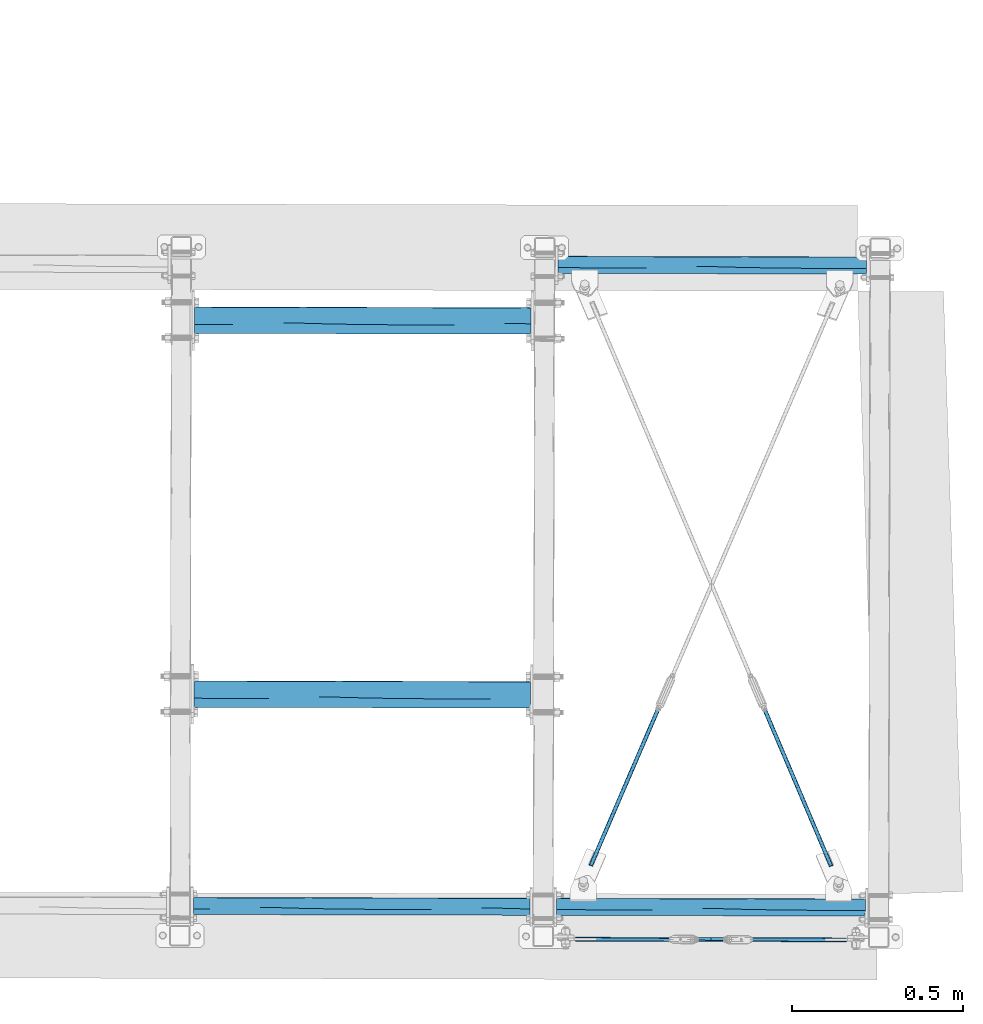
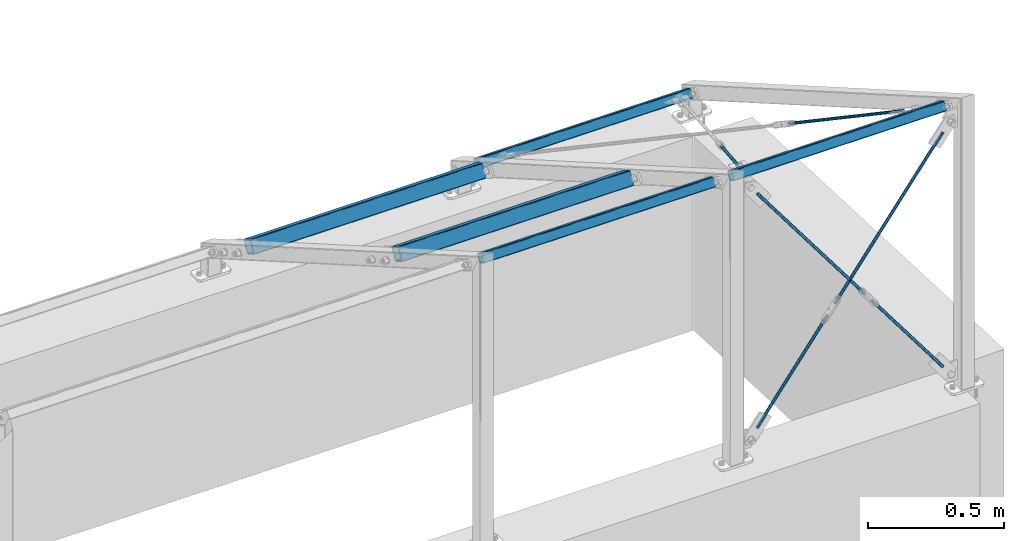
# One storey, part 20 of 288: 6 members, 5 beams.
"""IFC2X3 building model written with IfcOpenShell, lengths in millimetres."""

from ifc_helpers import new_model, entity, si_unit, converted_unit, frame, origin, origin_with_axes, origin_2d, place, context, project, spatial, hollow_rectangle, circle, extrude, clip, halfspace, material, element, save


model = new_model("IFC2X3")

# Units and contexts
model_context = context("Model", 3, precision=1e-09, world=origin_with_axes())
ifc_project = project(units=[si_unit("LENGTHUNIT", "METRE", prefix="MILLI"), si_unit("AREAUNIT", "SQUARE_METRE"), si_unit("VOLUMEUNIT", "CUBIC_METRE"), converted_unit("PLANEANGLEUNIT", "DEGREE", entity("IfcPlaneAngleMeasure", 0.01745329), si_unit("PLANEANGLEUNIT", "RADIAN"), dimensions=[0, 0, 0, 0, 0, 0, 0])], contexts=[model_context])

# Site, building, storey
site_placement = place(None, origin_with_axes())
site = spatial("IfcSite", under=ifc_project, at=site_placement, Name="Remont ?wietlik?w nad MC w NCPP w Opolu", CompositionType="ELEMENT")
building_placement = place(site_placement, origin_with_axes())
building = spatial("IfcBuilding", under=site, at=building_placement, Name="Konstrukcja 1", CompositionType="ELEMENT")
storey_placement = place(building_placement, origin_with_axes())
storey = spatial("IfcBuildingStorey", under=building, at=storey_placement, Name="Default Storey", CompositionType="ELEMENT", Elevation=0.0)

# Beams
ifc_material_1 = material(Name="S235")
beam_1_placement = place(None, frame((11126.811797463, 1809.992708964, 138.352558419), z_axis=(0.999997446, -0.002260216, 3.354e-06), x_axis=(0.001959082, 0.866023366, -0.499999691)))
element("IfcBeam", 1, at=beam_1_placement, inside=storey, material=ifc_material_1, Name="TubeBracing", ObjectType="TubeBracing", context=model_context, shape_type="Clipping", body=[
    clip(extrude(hollow_rectangle(XDim=40.0, YDim=40.0, WallThickness=3.0, InnerFilletRadius=3.0, OuterFilletRadius=6.0, at=origin_2d()), origin(), (0.0, 0.0, -1.0), 968.19855066), halfspace(frame((-1520.118080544, -1037.39399489, -67.289162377), z_axis=(0.0, 3.751e-06, -1.0), x_axis=(-0.866025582, -0.499999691, -1.875e-06)), True)),
])
for number, where, z_axis, x_axis, name in (
    (2, (10077.776601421, 557.220892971, 863.003675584), (0.999997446, -0.002260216, 3.354e-06), (0.001959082, 0.866023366, -0.499999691), "TubeBracing"),
    (3, (10080.245044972, 1648.410334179, 233.004064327), (0.999997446, -0.002260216, 3.354e-06), (0.001959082, 0.866023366, -0.499999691), "TubeBracing"),
):
    element("IfcBeam", number, at=place(None, frame(where, z_axis=z_axis, x_axis=x_axis)), inside=storey, material=ifc_material_1, Name=name, ObjectType="TubeBracing", context=model_context, shape_type="SweptSolid", body=[
        extrude(hollow_rectangle(XDim=60.0, YDim=60.0, WallThickness=3.0, InnerFilletRadius=3.0, OuterFilletRadius=6.0, at=origin_2d()), origin(), (0.0, 0.0, -1.0), 981.999999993),
    ])
beam_2_placement = place(None, frame((11122.573695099, -63.484425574, 1220.006964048), z_axis=(0.999997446, -0.002260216, 3.354e-06), x_axis=(0.001959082, 0.866023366, -0.499999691)))
element("IfcBeam", 4, at=beam_2_placement, inside=storey, material=ifc_material_1, Name="TubeBracing", ObjectType="TubeBracing", context=model_context, shape_type="Clipping", body=[
    clip(extrude(hollow_rectangle(XDim=40.0, YDim=40.0, WallThickness=3.0, InnerFilletRadius=3.0, OuterFilletRadius=6.0, at=origin_2d()), origin(), (0.0, 0.0, -1.0), 968.19855066), halfspace(frame((643.192065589, -1037.39399489, -67.289162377), z_axis=(0.0, 3.751e-06, -1.0), x_axis=(-0.866025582, -0.499999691, -1.875e-06)), True)),
])
beam_3_placement = place(None, frame((10076.377816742, -61.11979038, 1220.003455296), z_axis=(0.999997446, -0.002260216, 3.354e-06), x_axis=(0.001959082, 0.866023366, -0.499999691)))
element("IfcBeam", 5, at=beam_3_placement, inside=storey, material=ifc_material_1, Name="TubeBracing", ObjectType="TubeBracing", context=model_context, shape_type="SweptSolid", body=[
    extrude(hollow_rectangle(XDim=40.0, YDim=40.0, WallThickness=3.0, InnerFilletRadius=3.0, OuterFilletRadius=6.0, at=origin_2d()), origin(), (0.0, 0.0, -1.0), 981.999999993),
])

# Members
ifc_material_2 = material(Name="S275J2")
member_1_placement = place(None, frame((10530.72786655, -156.745526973, 555.267504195), z_axis=(0.599181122, -0.001345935, 0.800612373), x_axis=(-0.002246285, -0.999997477, 0.0)))
element("IfcMember", 6, at=member_1_placement, inside=storey, material=ifc_material_2, Name="Tension_Rod#1", ObjectType="Tension_Rod#1", context=model_context, shape_type="Clipping", body=[
    clip(clip(extrude(circle(Radius=6.0, at=origin_2d()), origin(), (0.0, 0.0, -1.0), 651.970562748), halfspace(frame((-133.090120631, -8098.585003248, -33.486281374), z_axis=(0.0, 0.0, -1.0), x_axis=(1.0, 0.0, 0.0)), True)), halfspace(frame((-133.090120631, -8098.585003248, -533.484281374), z_axis=(0.0, 0.0, 1.0), x_axis=(-1.0, 0.0, 0.0)), True)),
])
member_2_placement = place(None, frame((10520.559425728, -156.722685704, 541.68066168), z_axis=(-0.599181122, 0.001345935, -0.800612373), x_axis=(0.002246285, 0.999997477, 0.0)))
element("IfcMember", 7, at=member_2_placement, inside=storey, material=ifc_material_2, Name="Tension_Rod#2", ObjectType="Tension_Rod#2", context=model_context, shape_type="Clipping", body=[
    clip(clip(extrude(circle(Radius=6.0, at=origin_2d()), origin(), (0.0, 0.0, -1.0), 915.583568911), halfspace(frame((133.090120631, -8098.585003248, -33.486281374), z_axis=(0.0, 0.0, -1.0), x_axis=(1.0, 0.0, 0.0)), True)), halfspace(frame((133.090120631, -8098.585003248, -797.097287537), z_axis=(0.0, 0.0, 1.0), x_axis=(-1.0, 0.0, 0.0)), True)),
])
member_3_placement = place(None, frame((10678.511357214, -157.07980067, 555.267504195), z_axis=(-0.599181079, 0.001364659, 0.800612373), x_axis=(0.002277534, 0.999997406, 0.0)))
element("IfcMember", 8, at=member_3_placement, inside=storey, material=ifc_material_2, Name="Tension_Rod#1", ObjectType="Tension_Rod#1", context=model_context, shape_type="Clipping", body=[
    clip(clip(extrude(circle(Radius=6.0, at=origin_2d()), origin(), (0.0, 0.0, -1.0), 651.970562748), halfspace(frame((132.758721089, 8882.319213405, -33.486281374), z_axis=(0.0, 0.0, -1.0), x_axis=(1.0, 0.0, 0.0)), True)), halfspace(frame((132.758721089, 8882.319213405, -533.484281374), z_axis=(0.0, 0.0, 1.0), x_axis=(-1.0, 0.0, 0.0)), True)),
])
member_4_placement = place(None, frame((10688.679797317, -157.102959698, 541.68066168), z_axis=(0.599181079, -0.001364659, -0.800612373), x_axis=(-0.002277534, -0.999997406, 0.0)))
element("IfcMember", 9, at=member_4_placement, inside=storey, material=ifc_material_2, Name="Tension_Rod#2", ObjectType="Tension_Rod#2", context=model_context, shape_type="Clipping", body=[
    clip(clip(extrude(circle(Radius=6.0, at=origin_2d()), origin(), (0.0, 0.0, -1.0), 915.583568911), halfspace(frame((-132.758721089, 8882.319213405, -33.486281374), z_axis=(0.0, 0.0, -1.0), x_axis=(1.0, 0.0, 0.0)), True)), halfspace(frame((-132.758721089, 8882.319213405, -797.097287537), z_axis=(0.0, 0.0, 1.0), x_axis=(-1.0, 0.0, 0.0)), True)),
])
member_5_placement = place(None, frame((10474.811644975, 571.243604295, 863.623924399), z_axis=(0.349036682, 0.811364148, -0.468894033), x_axis=(-0.001127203, -0.499998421, -0.866025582)))
element("IfcMember", 10, at=member_5_placement, inside=storey, material=ifc_material_2, Name="Tension_Rod#1", ObjectType="Tension_Rod#1", context=model_context, shape_type="Clipping", body=[
    clip(clip(extrude(circle(Radius=6.0, at=origin_2d()), origin(), (0.0, 0.0, -1.0), 761.970562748), halfspace(frame((1045.348551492, 9792.987297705, -33.486281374), z_axis=(0.0, 0.0, -1.0), x_axis=(0.196549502, -0.980493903, 0.0)), True)), halfspace(frame((1045.348551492, 9792.987297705, -633.484281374), z_axis=(0.0, 0.0, 1.0), x_axis=(-0.196549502, 0.980493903, 0.0)), True)),
])
member_6_placement = place(None, frame((10737.719503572, 570.649374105, 863.624806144), z_axis=(-0.345362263, 0.812933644, -0.468896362), x_axis=(0.001127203, 0.499998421, 0.866025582)))
element("IfcMember", 11, at=member_6_placement, inside=storey, material=ifc_material_2, Name="Tension_Rod#1", ObjectType="Tension_Rod#1", context=model_context, shape_type="Clipping", body=[
    clip(clip(extrude(circle(Radius=6.0, at=origin_2d()), origin(), (0.0, 0.0, -1.0), 761.970562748), halfspace(frame((-1045.348551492, -10097.467195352, -33.486281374), z_axis=(0.0, 0.0, -1.0), x_axis=(0.196542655, 0.980495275, 0.0)), True)), halfspace(frame((-1045.348551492, -10097.467195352, -633.484281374), z_axis=(0.0, 0.0, 1.0), x_axis=(-0.196542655, -0.980495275, 0.0)), True)),
])

save(model, "model.ifc")
